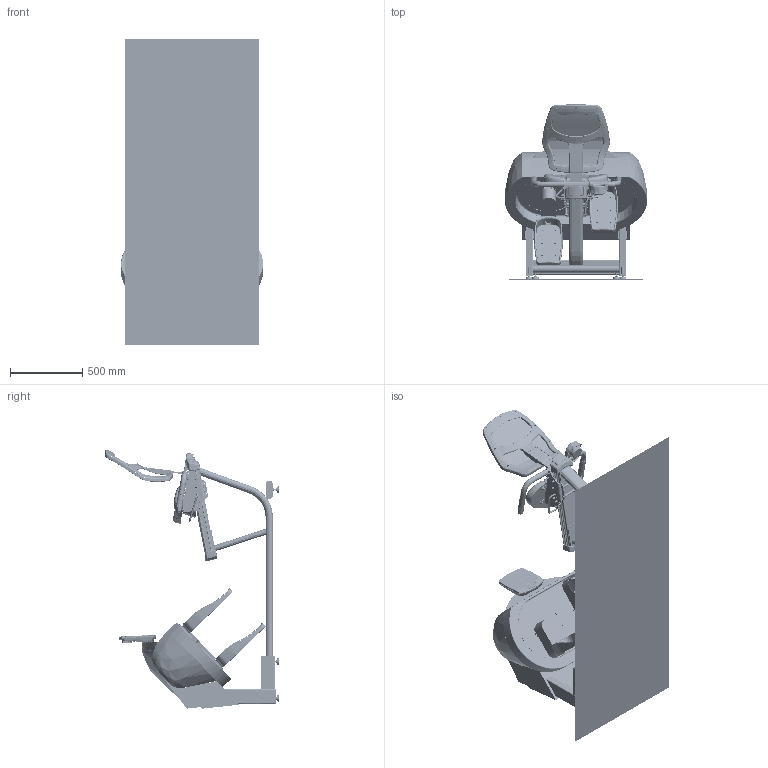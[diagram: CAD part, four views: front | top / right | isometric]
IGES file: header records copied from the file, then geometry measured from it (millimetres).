
Start section: SolidWorks IGES file using analytic representation for surfaces
Global section: file name: D:\SolidWorks_files\SERIOUSFITNESS\USA_PARTS\GrabCAD_FILE_EXPORTS\MR04_RECUMBANT_03-06-2015_A.IGS; native system: SolidWorks 2014; preprocessor: SolidWorks 2014; author: Andrew_Grove; date: 150306.085153; units: millimetre
Bounding box: 981.48 x 1206.54 x 2118.3 mm (x, y, z)
Surface area: 12504528.2 mm2 (no closed solid volume)
Topology: 0 solids, 0 shells, 7070 faces, 107528 edges, 107443 vertices
Faces by surface type: bspline 4377, revolution 2693
